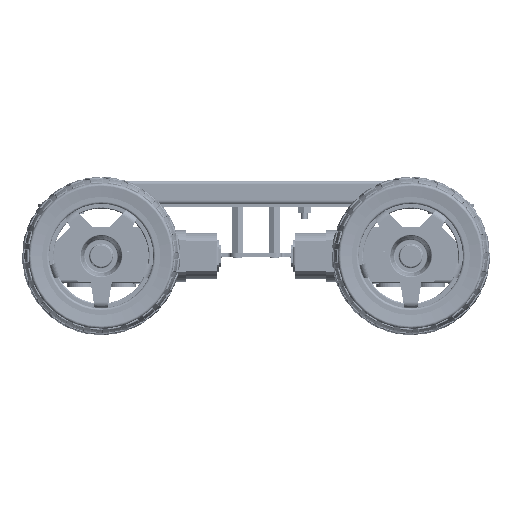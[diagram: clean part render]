
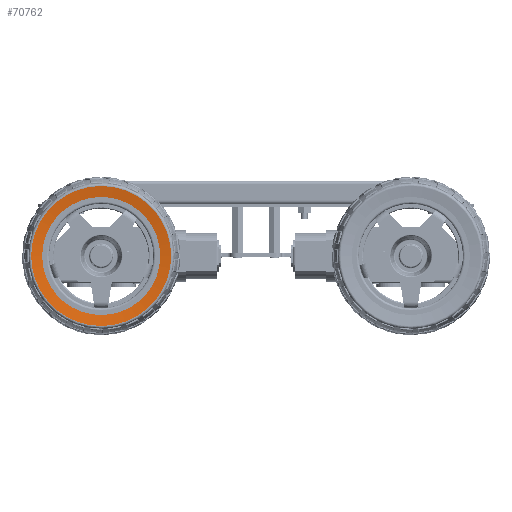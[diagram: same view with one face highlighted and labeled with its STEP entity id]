
A CAD part, front view. The second image highlights one B-rep face of the part: STEP entity #70762.
In plain terms, the highlighted conical face has half-angle 82.235 degrees and reference radius 30.463 mm.
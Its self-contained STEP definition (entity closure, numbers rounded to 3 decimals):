
#2691=CONICAL_SURFACE('',#76052,30.464,1.435);
#10663=FACE_OUTER_BOUND('',#15095,.T.);
#15095=EDGE_LOOP('',(#50087,#50088,#50089,#50090));
#20398=LINE('',#96346,#23950);
#23950=VECTOR('',#82760,30.464);
#27280=CIRCLE('',#76051,25.7);
#27281=CIRCLE('',#76053,30.464);
#29915=VERTEX_POINT('',#96341);
#29916=VERTEX_POINT('',#96345);
#37692=EDGE_CURVE('',#29915,#29915,#27280,.T.);
#37693=EDGE_CURVE('',#29915,#29916,#20398,.T.);
#37694=EDGE_CURVE('',#29916,#29916,#27281,.T.);
#50087=ORIENTED_EDGE('',*,*,#37692,.F.);
#50088=ORIENTED_EDGE('',*,*,#37693,.T.);
#50089=ORIENTED_EDGE('',*,*,#37694,.T.);
#50090=ORIENTED_EDGE('',*,*,#37693,.F.);
#70762=ADVANCED_FACE('',(#10663),#2691,.F.);
#76051=AXIS2_PLACEMENT_3D('',#96343,#82756,#82757);
#76052=AXIS2_PLACEMENT_3D('',#96344,#82758,#82759);
#76053=AXIS2_PLACEMENT_3D('',#96347,#82761,#82762);
#82756=DIRECTION('center_axis',(0.,0.,1.));
#82757=DIRECTION('ref_axis',(1.,0.,0.));
#82758=DIRECTION('center_axis',(0.,0.,1.));
#82759=DIRECTION('ref_axis',(1.,0.,0.));
#82760=DIRECTION('',(-0.991,0.,0.135));
#82761=DIRECTION('center_axis',(0.,0.,1.));
#82762=DIRECTION('ref_axis',(1.,0.,0.));
#96341=CARTESIAN_POINT('',(-25.7,0.,-0.75));
#96343=CARTESIAN_POINT('Origin',(0.,0.,-0.75));
#96344=CARTESIAN_POINT('Origin',(0.,0.,-0.1));
#96345=CARTESIAN_POINT('',(-30.464,0.,-0.1));
#96346=CARTESIAN_POINT('',(-30.464,0.,-0.1));
#96347=CARTESIAN_POINT('Origin',(0.,0.,-0.1));
